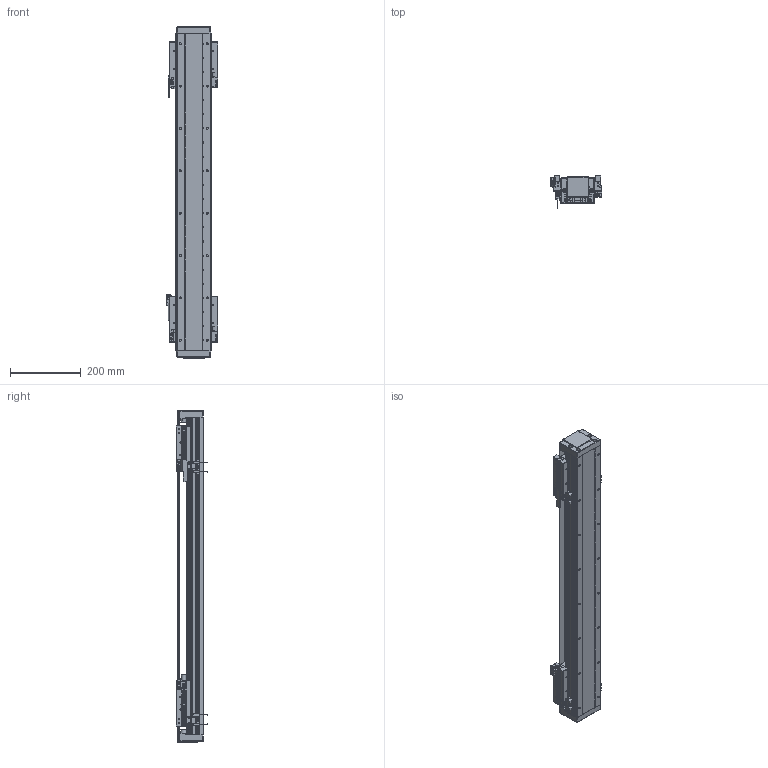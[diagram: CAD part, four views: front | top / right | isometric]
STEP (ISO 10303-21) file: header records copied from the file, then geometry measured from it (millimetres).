
FILE_DESCRIPTION (( 'STEP AP203' ), '1' );
FILE_NAME ('DA-B95-2-B15-T560-C010-0.2 直线电机.STEP', '2023-05-06T06:25:25', ( '微软用户' ), ( '微软中国' ), 'SwSTEP 2.0', 'SolidWorks 2019', '' );
FILE_SCHEMA (( 'CONFIG_CONTROL_DESIGN' ));
Length unit declared in the file: millimetre
Products named in the file (32): 复件 DKW-KGZ-ZJ-00 中间光电开关支架^DA-A95-B15-T-C010-0.2-N 直线电机; 复件 DA95-DB-00  挡板^66245-BU95-V 滚珠滑台; IU-BU95-L-00 菁釱_L900; 复件 DA95-DK-00 挡块^66245-BU95-V 滚珠滑台; 葩璃 PM-Y45^DA-A95-B15-T-C010-0.2-N 眻盄萇儂; ｸｴｼ DA95-Txxx-002-00 ｸﾇｰ蘓DA-A95-B15-T-C010-0.2-N ﾖｱﾏﾟｵ扈銈T+30; 66245-BU95-V 幗紩賑怢; 葩璃 BKMA01-W060-TRL^DA-A95-B15-T-C010-0.2-N 眻盄萇儂; 复件 66245-BU95-HT-V-01 滑动台板^66245-BU95-V-00 一体化滑动台板; 复件 DKW-GYP-ZJ-00 中间光电感应片^DA-A95-B15-T-C010-0.2-N 直线电机; 复件 六角薄螺母 M3^DA-A95-B15-T-C010-0.2-N 直线电机_GB_FASTENER_NUT_STNAB M3-C; 复件 DA95-HK-GT-00 滑块钢轨^66245-BU95-V-00 一体化滑动台板; LMDK-2-R001-V5-L02-C1-F00，0.2M 读数头^DA-A95-B15-T-C010-0.2-N 直线电机_DMA-010-0.2; 复件 DA95-B15-YB-A-00 压板A^66245-BU95-V 滚珠滑台; 复件 纯铜油杯 6x6mm^66245-BU95-V 滚珠滑台; 复件 DA95-MFP-01 密封片^66245-BU95-V 滚珠滑台; 葩璃 DA95-B15-DP--B-00 菜えB^66245-BU95-V 幗紩賑怢; DA95-DG-H-01^DA-A95-B15-T-C010-0.2-N 眻盄萇儂; DA-A95-GYP-00 光电感应片^DA-A95-B15-T-C010-0.2-N 直线电机; B15 XD-U-02L ｴﾅﾕ､ｳﾟ^DA-A95-B15-T-C010-0.2-N ﾖｱﾏﾟｵ扈銈XD-U-02L; 葩璃 DA95-GT-T-00^IU-BU95-L 菁釱絳寢_DA95; 葩璃 DA95-B15-DP-A-00 菜えA^66245-BU95-V 幗紩賑怢; IU-BU95-L 菁釱絳寢; 66245-BU95-V-00 珨极趙賑雄怢啣; DA95-HXJ-00 缓冲橡胶^DA-A95-B15-T-C010-0.2-N 直线电机; 葩璃 BKM015-W060-C1-TP-DA-0.2^DA-A95-B15-T-C010-0.2-N 眻盄萇儂; DA-B95-2-B15-T560-C010-0.2 眻盄萇儂; 复件 DKW-HXJ-JY-00 缓冲橡胶^DA-A95-B15-T-C010-0.2-N 直线电机; 复件 DA95-B15-YB-B-00 压板B^66245-BU95-V 滚珠滑台; PM-T45 光电开关^DA-A95-B15-T-C010-0.2-N 直线电机
Assembly tree (76 placements, depth 4):
  DA-B95-2-B15-T560-C010-0.2 眻盄萇儂
    IU-BU95-L 菁釱絳寢
      IU-BU95-L-00 菁釱_L900
      葩璃 DA95-GT-T-00^IU-BU95-L 菁釱絳寢_DA95  x2
    66245-BU95-V 幗紩賑怢
      66245-BU95-V-00 珨极趙賑雄怢啣
        复件 66245-BU95-HT-V-01 滑动台板^66245-BU95-V-00 一体化滑动台板
        复件 DA95-HK-GT-00 滑块钢轨^66245-BU95-V-00 一体化滑动台板  x2
      葩璃 DA95-B15-DP-A-00 菜えA^66245-BU95-V 幗紩賑怢
      复件 DA95-B15-YB-A-00 压板A^66245-BU95-V 滚珠滑台
      复件 DA95-B15-YB-B-00 压板B^66245-BU95-V 滚珠滑台
      复件 DA95-DB-00  挡板^66245-BU95-V 滚珠滑台  x4
      复件 DA95-DK-00 挡块^66245-BU95-V 滚珠滑台  x2
      复件 DA95-MFP-01 密封片^66245-BU95-V 滚珠滑台  x4
      复件 纯铜油杯 6x6mm^66245-BU95-V 滚珠滑台  x2
      葩璃 DA95-B15-DP--B-00 菜えB^66245-BU95-V 幗紩賑怢
    66245-BU95-V 幗紩賑怢
      66245-BU95-V-00 珨极趙賑雄怢啣
        复件 66245-BU95-HT-V-01 滑动台板^66245-BU95-V-00 一体化滑动台板
        复件 DA95-HK-GT-00 滑块钢轨^66245-BU95-V-00 一体化滑动台板  x2
      葩璃 DA95-B15-DP-A-00 菜えA^66245-BU95-V 幗紩賑怢
      复件 DA95-B15-YB-A-00 压板A^66245-BU95-V 滚珠滑台
      复件 DA95-B15-YB-B-00 压板B^66245-BU95-V 滚珠滑台
      复件 DA95-DB-00  挡板^66245-BU95-V 滚珠滑台  x4
      复件 DA95-DK-00 挡块^66245-BU95-V 滚珠滑台  x2
      复件 DA95-MFP-01 密封片^66245-BU95-V 滚珠滑台  x4
      复件 纯铜油杯 6x6mm^66245-BU95-V 滚珠滑台  x2
      葩璃 DA95-B15-DP--B-00 菜えB^66245-BU95-V 幗紩賑怢
    DA-A95-GYP-00 光电感应片^DA-A95-B15-T-C010-0.2-N 直线电机  x2
    LMDK-2-R001-V5-L02-C1-F00，0.2M 读数头^DA-A95-B15-T-C010-0.2-N 直线电机_DMA-010-0.2  x2
    复件 DKW-KGZ-ZJ-00 中间光电开关支架^DA-A95-B15-T-C010-0.2-N 直线电机
    葩璃 PM-Y45^DA-A95-B15-T-C010-0.2-N 眻盄萇儂
    复件 DKW-GYP-ZJ-00 中间光电感应片^DA-A95-B15-T-C010-0.2-N 直线电机
    葩璃 BKM015-W060-C1-TP-DA-0.2^DA-A95-B15-T-C010-0.2-N 眻盄萇儂  x2
    复件 DKW-HXJ-JY-00 缓冲橡胶^DA-A95-B15-T-C010-0.2-N 直线电机  x2
    PM-T45 光电开关^DA-A95-B15-T-C010-0.2-N 直线电机  x4
    B15 XD-U-02L ｴﾅﾕ､ｳﾟ^DA-A95-B15-T-C010-0.2-N ﾖｱﾏﾟｵ扈銈XD-U-02L
    DA95-DG-H-01^DA-A95-B15-T-C010-0.2-N 眻盄萇儂  x2
    ｸｴｼ DA95-Txxx-002-00 ｸﾇｰ蘓DA-A95-B15-T-C010-0.2-N ﾖｱﾏﾟｵ扈銈T+30
    DA95-HXJ-00 缓冲橡胶^DA-A95-B15-T-C010-0.2-N 直线电机  x4
    葩璃 BKMA01-W060-TRL^DA-A95-B15-T-C010-0.2-N 眻盄萇儂
    复件 六角薄螺母 M3^DA-A95-B15-T-C010-0.2-N 直线电机_GB_FASTENER_NUT_STNAB M3-C  x6
Bounding box: 145.4 x 90.2 x 940 mm (x, y, z)
Volume: 4076819 mm3; surface area: 1240251.6 mm2
Topology: 71 solids, 89 shells, 4238 faces, 10936 edges, 6733 vertices
Faces by surface type: cylinder 1820, plane 1466, cone 544, bspline 344, torus 60, sphere 4
Entity records: 83951 total; most frequent: CARTESIAN_POINT 23362, ORIENTED_EDGE 11810, DIRECTION 11613, EDGE_CURVE 5905, AXIS2_PLACEMENT_3D 4335, VERTEX_POINT 3748, LINE 2943, VECTOR 2943
